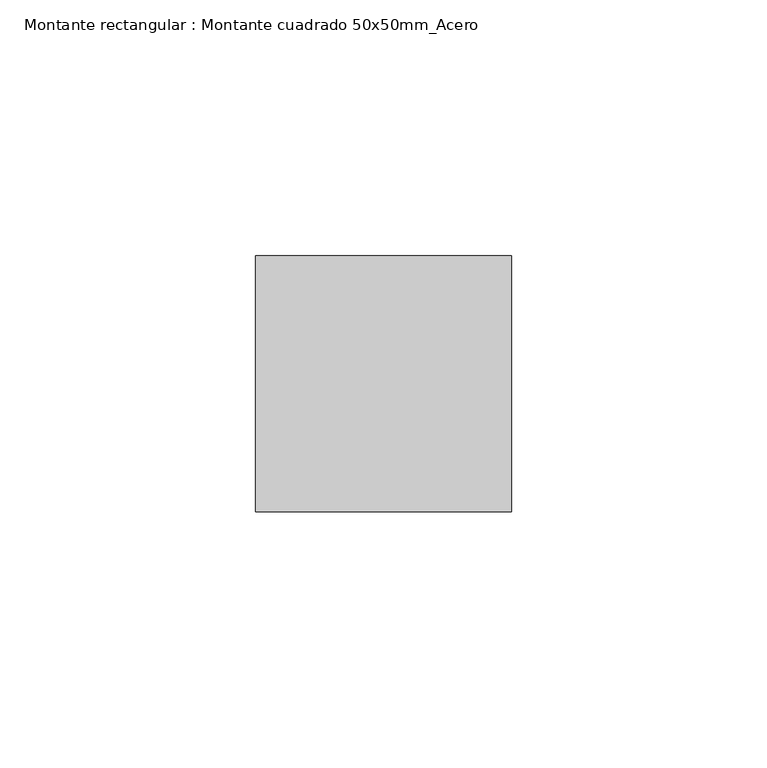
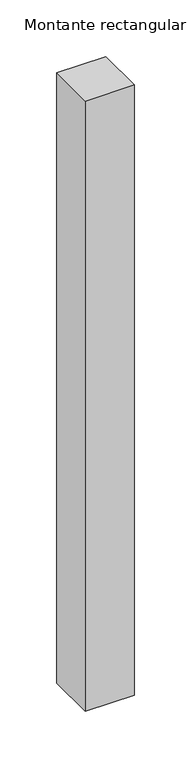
"""IFC4 building model written with IfcOpenShell, lengths in millimetres: member geometry, Montante rectangular : Montante cuadrado 50x50mm_Acero."""

from ifc_helpers import new_model, si_unit, frame, origin, place, context, project, spatial, polyline, outline, extrude, source, transform, mapped, element, save


def montante_rectangular_montante_cuadrado_50x50mm_acero_9d536347(model_context):
    return source(origin(), model_context, "Body", "SweptSolid", [
        extrude(outline(polyline([(0.0, 0.0), (-50.0, 0.0), (-50.0, 50.0), (0.0, 50.0), (0.0, 0.0)])), frame((0.0, 0.0, -657.2582354), z_axis=(0.0, 0.0, 1.0), x_axis=(1.0, 0.0, 0.0)), (0.0, 0.0, 1.0), 657.2582354),
    ])


if __name__ == "__main__":
    model = new_model("IFC4")
    model_context = context("Model", 3, world=origin())
    ifc_project = project(units=[si_unit("LENGTHUNIT", "METRE", prefix="MILLI")], contexts=[model_context])
    site = spatial("IfcSite", under=ifc_project)
    building = spatial("IfcBuilding", under=site)
    placement = place(None, origin())
    montante_rectangular_montante_cuadrado_50x50mm_acero_shape = montante_rectangular_montante_cuadrado_50x50mm_acero_9d536347(model_context)
    element("IfcMember", 1, ObjectType="Montante rectangular : Montante cuadrado 50x50mm_Acero", at=placement, inside=building, context=model_context, shape_type="MappedRepresentation", body=[
        mapped(montante_rectangular_montante_cuadrado_50x50mm_acero_shape, transform((0.0, 0.0, 0.0), x_axis=(1.0, 0.0, 0.0), y_axis=(0.0, 1.0, 0.0), z_axis=(0.0, 0.0, 1.0))),
    ])
    save(model, "model.ifc")
